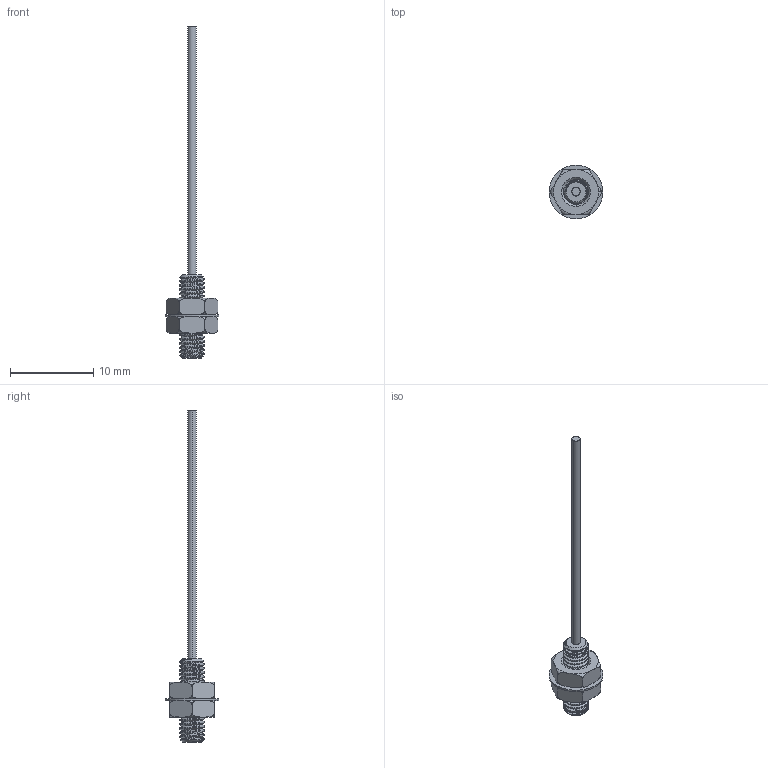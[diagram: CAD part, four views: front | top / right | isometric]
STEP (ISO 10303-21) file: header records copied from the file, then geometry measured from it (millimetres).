
FILE_DESCRIPTION (( 'STEP AP203' ), '1' );
FILE_NAME ('FQ-79_T.STEP', '2020-11-03T08:41:00', ( '' ), ( '' ), 'SwSTEP 2.0', 'SolidWorks 2020', '' );
FILE_SCHEMA (( 'CONFIG_CONTROL_DESIGN' ));
Length unit declared in the file: millimetre
Products named in the file (4): FQ-79_T; M3菜え____; M3蹟譫x2x2x2
Assembly tree (4 placements, depth 2):
  FQ-79_T
    FQ-79_T
    M3蹟譫x2x2x2  x2
    M3菜え____
Bounding box: 6.5 x 6.5 x 40 mm (x, y, z)
Volume: 161.6 mm3; surface area: 484.8 mm2
Topology: 4 solids, 4 shells, 156 faces, 383 edges, 244 vertices
Faces by surface type: cylinder 74, plane 29, torus 28, cone 16, bspline 9
Entity records: 7756 total; most frequent: CARTESIAN_POINT 4800, ORIENTED_EDGE 588, DIRECTION 474, EDGE_CURVE 294, AXIS2_PLACEMENT_3D 196, VERTEX_POINT 190, EDGE_LOOP 132, FACE_OUTER_BOUND 119
